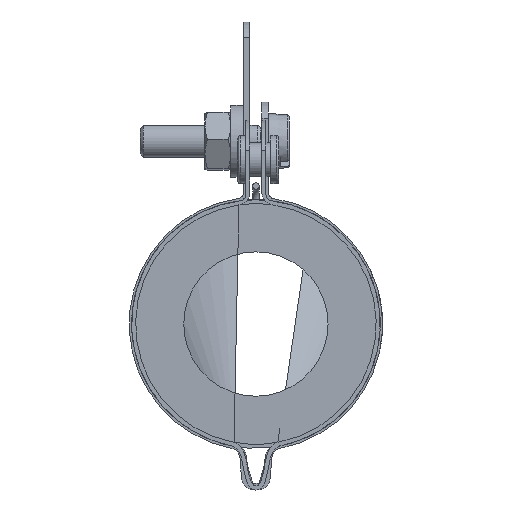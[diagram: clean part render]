
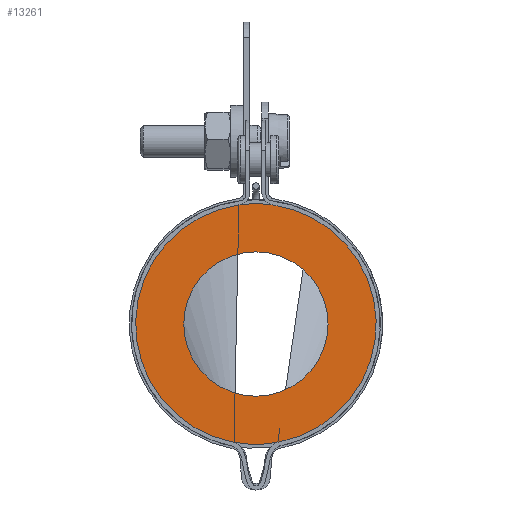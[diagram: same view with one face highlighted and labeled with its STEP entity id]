
A CAD part, front view. The second image highlights one B-rep face of the part: STEP entity #13261.
In plain terms, the highlighted planar face has unit normal (0, -1, 0).
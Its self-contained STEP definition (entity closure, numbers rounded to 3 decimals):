
#69=B_SPLINE_CURVE_WITH_KNOTS($,3,(#22208,#22209,#22210,#22211),
 .UNSPECIFIED.,.F.,.F.,(4,4),(0.,0.018),.UNSPECIFIED.);
#70=B_SPLINE_CURVE_WITH_KNOTS($,3,(#22215,#22216,#22217,#22218),
 .UNSPECIFIED.,.F.,.F.,(4,4),(0.126,0.143),
 .UNSPECIFIED.);
#1108=LINE($,#22220,#2202);
#1109=LINE($,#22227,#2203);
#2202=VECTOR($,#18115,0.099);
#2203=VECTOR($,#18122,0.099);
#2569=FACE_BOUND($,#3937,.T.);
#3192=FACE_OUTER_BOUND($,#3936,.T.);
#3936=EDGE_LOOP($,(#11089,#11090,#11091,#11092,#11093,#11094,#11095,#11096));
#3937=EDGE_LOOP($,(#11097));
#4670=CIRCLE($,#14554,9.);
#4671=CIRCLE($,#14557,15.);
#4672=CIRCLE($,#14558,15.);
#4673=CIRCLE($,#14559,15.);
#4674=CIRCLE($,#14560,15.);
#5863=VERTEX_POINT($,#22202);
#5864=VERTEX_POINT($,#22206);
#5865=VERTEX_POINT($,#22207);
#5866=VERTEX_POINT($,#22212);
#5867=VERTEX_POINT($,#22214);
#5868=VERTEX_POINT($,#22219);
#5869=VERTEX_POINT($,#22221);
#5870=VERTEX_POINT($,#22223);
#5871=VERTEX_POINT($,#22225);
#7635=EDGE_CURVE($,#5863,#5863,#4670,.T.);
#7636=EDGE_CURVE($,#5864,#5865,#69,.T.);
#7637=EDGE_CURVE($,#5865,#5866,#4671,.T.);
#7638=EDGE_CURVE($,#5866,#5867,#70,.T.);
#7639=EDGE_CURVE($,#5867,#5868,#1108,.T.);
#7640=EDGE_CURVE($,#5868,#5869,#4672,.T.);
#7641=EDGE_CURVE($,#5869,#5870,#4673,.T.);
#7642=EDGE_CURVE($,#5870,#5871,#4674,.T.);
#7643=EDGE_CURVE($,#5871,#5864,#1109,.T.);
#11089=ORIENTED_EDGE($,*,*,#7636,.T.);
#11090=ORIENTED_EDGE($,*,*,#7637,.T.);
#11091=ORIENTED_EDGE($,*,*,#7638,.T.);
#11092=ORIENTED_EDGE($,*,*,#7639,.T.);
#11093=ORIENTED_EDGE($,*,*,#7640,.T.);
#11094=ORIENTED_EDGE($,*,*,#7641,.T.);
#11095=ORIENTED_EDGE($,*,*,#7642,.T.);
#11096=ORIENTED_EDGE($,*,*,#7643,.T.);
#11097=ORIENTED_EDGE($,*,*,#7635,.T.);
#11953=PLANE($,#14556);
#13261=ADVANCED_FACE($,(#3192,#2569),#11953,.T.);
#14554=AXIS2_PLACEMENT_3D($,#22203,#18107,#18108);
#14556=AXIS2_PLACEMENT_3D($,#22205,#18111,#18112);
#14557=AXIS2_PLACEMENT_3D($,#22213,#18113,#18114);
#14558=AXIS2_PLACEMENT_3D($,#22222,#18116,#18117);
#14559=AXIS2_PLACEMENT_3D($,#22224,#18118,#18119);
#14560=AXIS2_PLACEMENT_3D($,#22226,#18120,#18121);
#18107=DIRECTION('center_axis',(0.,1.,0.));
#18108=DIRECTION('ref_axis',(1.,0.,0.));
#18111=DIRECTION('center_axis',(0.,-1.,0.));
#18112=DIRECTION('ref_axis',(0.,0.,-1.));
#18113=DIRECTION('center_axis',(0.,-1.,0.));
#18114=DIRECTION('ref_axis',(1.,0.,0.));
#18115=DIRECTION($,(0.995,0.,0.097));
#18116=DIRECTION('center_axis',(0.,-1.,0.));
#18117=DIRECTION('ref_axis',(1.,0.,0.));
#18118=DIRECTION('center_axis',(0.,-1.,0.));
#18119=DIRECTION('ref_axis',(1.,0.,0.));
#18120=DIRECTION('center_axis',(0.,-1.,0.));
#18121=DIRECTION('ref_axis',(1.,0.,0.));
#18122=DIRECTION($,(0.995,0.,-0.097));
#22202=CARTESIAN_POINT('',(-9.,0.,0.));
#22203=CARTESIAN_POINT('Origin',(0.,0.,0.));
#22205=CARTESIAN_POINT('Origin',(0.,0.,0.));
#22206=CARTESIAN_POINT('',(-2.901,0.,-14.707));
#22207=CARTESIAN_POINT('',(-2.731,0.,-14.749));
#22208=CARTESIAN_POINT('Ctrl Pts',(-2.901,0.,-14.707));
#22209=CARTESIAN_POINT('Ctrl Pts',(-2.843,0.,-14.718));
#22210=CARTESIAN_POINT('Ctrl Pts',(-2.786,0.,-14.732));
#22211=CARTESIAN_POINT('Ctrl Pts',(-2.731,0.,-14.749));
#22212=CARTESIAN_POINT('',(2.731,0.,-14.749));
#22213=CARTESIAN_POINT('Origin',(0.,0.,0.));
#22214=CARTESIAN_POINT('',(2.901,0.,-14.707));
#22215=CARTESIAN_POINT('Ctrl Pts',(2.731,0.,
-14.75));
#22216=CARTESIAN_POINT('Ctrl Pts',(2.786,0.,
-14.732));
#22217=CARTESIAN_POINT('Ctrl Pts',(2.843,0.,
-14.718));
#22218=CARTESIAN_POINT('Ctrl Pts',(2.901,0.,
-14.707));
#22219=CARTESIAN_POINT('',(3.,0.,-14.697));
#22220=CARTESIAN_POINT($,(2.176,0.,-14.777));
#22221=CARTESIAN_POINT('',(2.123,0.,14.849));
#22222=CARTESIAN_POINT('Origin',(0.,0.,0.));
#22223=CARTESIAN_POINT('',(-2.123,0.,14.849));
#22224=CARTESIAN_POINT('Origin',(0.,0.,0.));
#22225=CARTESIAN_POINT('',(-3.,0.,-14.697));
#22226=CARTESIAN_POINT('Origin',(0.,0.,0.));
#22227=CARTESIAN_POINT($,(-2.176,0.,-14.777));
